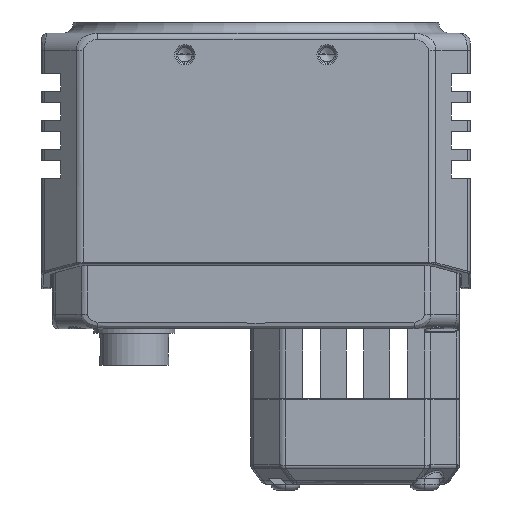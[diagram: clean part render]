
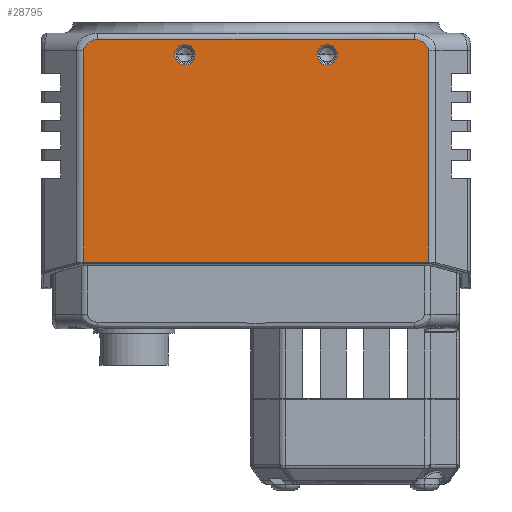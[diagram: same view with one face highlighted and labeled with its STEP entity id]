
A CAD part, left-side view. The second image highlights one B-rep face of the part: STEP entity #28795.
In plain terms, the highlighted planar face has unit normal (-1, 0, 0).
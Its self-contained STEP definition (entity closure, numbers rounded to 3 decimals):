
#974=CARTESIAN_POINT('',(-37.,-29.754,
-27.279));
#980=CARTESIAN_POINT('',(-37.,29.754,9.17));
#981=CARTESIAN_POINT('',(-37.,29.763,9.272));
#982=CARTESIAN_POINT('',(-37.,29.736,9.487));
#983=CARTESIAN_POINT('',(-37.,29.491,9.974));
#984=CARTESIAN_POINT('',(-37.,29.274,10.22));
#985=CARTESIAN_POINT('',(-37.,28.902,10.567));
#986=CARTESIAN_POINT('',(-37.,28.358,10.908));
#987=CARTESIAN_POINT('',(-37.,27.758,11.128));
#988=CARTESIAN_POINT('',(-37.,27.42,11.172));
#989=CARTESIAN_POINT('',(-37.,27.257,11.17));
#991=CARTESIAN_POINT('',(-37.,-27.259,11.168));
#992=CARTESIAN_POINT('',(-37.,-27.259,11.168));
#993=CARTESIAN_POINT('',(-37.,-27.308,11.168));
#994=CARTESIAN_POINT('',(-37.,-27.411,11.164));
#995=CARTESIAN_POINT('',(-37.,-27.57,11.145));
#996=CARTESIAN_POINT('',(-37.,-27.741,11.111));
#997=CARTESIAN_POINT('',(-37.,-27.922,11.061));
#998=CARTESIAN_POINT('',(-37.,-28.113,10.994));
#999=CARTESIAN_POINT('',(-37.,-28.309,10.909));
#1000=CARTESIAN_POINT('',(-37.,-28.504,10.808));
#1001=CARTESIAN_POINT('',(-37.,-28.685,10.699));
#1002=CARTESIAN_POINT('',(-37.,-28.846,10.588));
#1003=CARTESIAN_POINT('',(-37.,-28.985,10.48));
#1004=CARTESIAN_POINT('',(-37.,-29.107,10.376));
#1005=CARTESIAN_POINT('',(-37.,-29.213,10.275));
#1006=CARTESIAN_POINT('',(-37.,-29.305,10.177));
#1007=CARTESIAN_POINT('',(-37.,-29.387,10.081));
#1008=CARTESIAN_POINT('',(-37.,-29.458,9.989));
#1009=CARTESIAN_POINT('',(-37.,-29.52,9.899));
#1010=CARTESIAN_POINT('',(-37.,-29.573,9.811));
#1011=CARTESIAN_POINT('',(-37.,-29.619,9.726));
#1012=CARTESIAN_POINT('',(-37.,-29.657,9.642));
#1013=CARTESIAN_POINT('',(-37.,-29.688,9.56));
#1014=CARTESIAN_POINT('',(-37.,-29.713,9.48));
#1015=CARTESIAN_POINT('',(-37.,-29.732,9.401));
#1016=CARTESIAN_POINT('',(-37.,-29.745,9.323));
#1017=CARTESIAN_POINT('',(-37.,-29.753,9.246));
#1018=CARTESIAN_POINT('',(-37.,-29.754,9.195));
#1019=CARTESIAN_POINT('',(-37.,-29.754,9.17));
#1021=DIRECTION('',(0.,0.,-1.));
#1022=VECTOR('',#1021,36.449);
#1023=CARTESIAN_POINT('',(-37.,-29.754,
9.17));
#1024=LINE('',#1023,#1022);
#1025=CARTESIAN_POINT('',(-37.,-12.25,8.47));
#1026=DIRECTION('',(-1.,0.,0.));
#1027=DIRECTION('',(0.,-1.,0.));
#1028=AXIS2_PLACEMENT_3D('',#1025,#1026,#1027);
#1030=CARTESIAN_POINT('',(-37.,-12.25,8.47));
#1031=DIRECTION('',(-1.,0.,0.));
#1032=DIRECTION('',(0.,0.,1.));
#1033=AXIS2_PLACEMENT_3D('',#1030,#1031,#1032);
#1035=CARTESIAN_POINT('',(-37.,-12.25,8.47));
#1036=DIRECTION('',(-1.,0.,0.));
#1037=DIRECTION('',(0.,1.,0.));
#1038=AXIS2_PLACEMENT_3D('',#1035,#1036,#1037);
#1040=CARTESIAN_POINT('',(-37.,-12.25,8.47));
#1041=DIRECTION('',(-1.,0.,0.));
#1042=DIRECTION('',(0.,0.,-1.));
#1043=AXIS2_PLACEMENT_3D('',#1040,#1041,#1042);
#1045=CARTESIAN_POINT('',(-37.,12.25,8.47));
#1046=DIRECTION('',(-1.,0.,0.));
#1047=DIRECTION('',(0.,1.,0.));
#1048=AXIS2_PLACEMENT_3D('',#1045,#1046,#1047);
#1050=CARTESIAN_POINT('',(-37.,12.25,8.47));
#1051=DIRECTION('',(-1.,0.,0.));
#1052=DIRECTION('',(0.,0.,-1.));
#1053=AXIS2_PLACEMENT_3D('',#1050,#1051,#1052);
#1055=CARTESIAN_POINT('',(-37.,12.25,8.47));
#1056=DIRECTION('',(-1.,0.,0.));
#1057=DIRECTION('',(0.,-1.,0.));
#1058=AXIS2_PLACEMENT_3D('',#1055,#1056,#1057);
#1060=CARTESIAN_POINT('',(-37.,12.25,8.47));
#1061=DIRECTION('',(-1.,0.,0.));
#1062=DIRECTION('',(0.,0.,1.));
#1063=AXIS2_PLACEMENT_3D('',#1060,#1061,#1062);
#1065=DIRECTION('',(0.,-1.,0.));
#1066=VECTOR('',#1065,59.509);
#1067=CARTESIAN_POINT('',(-37.,29.754,
-27.279));
#1068=LINE('',#1067,#1066);
#1099=DIRECTION('',(0.,0.,-1.));
#1100=VECTOR('',#1099,36.449);
#1101=CARTESIAN_POINT('',(-37.,29.754,9.17));
#1102=LINE('',#1101,#1100);
#1997=DIRECTION('',(0.,1.,0.));
#1998=VECTOR('',#1997,54.517);
#1999=CARTESIAN_POINT('',(-37.,-27.259,
11.168));
#2000=LINE('',#1999,#1998);
#25667=VERTEX_POINT('',#974);
#25668=CARTESIAN_POINT('',(-37.,-29.754,
9.17));
#25669=VERTEX_POINT('',#25668);
#25672=VERTEX_POINT('',#980);
#25673=VERTEX_POINT('',#989);
#25674=VERTEX_POINT('',#991);
#25675=CARTESIAN_POINT('',(-37.,-14.,8.47));
#25676=CARTESIAN_POINT('',(-37.,-12.25,10.22));
#25677=VERTEX_POINT('',#25675);
#25678=VERTEX_POINT('',#25676);
#25679=CARTESIAN_POINT('',(-37.,-10.5,8.47));
#25680=VERTEX_POINT('',#25679);
#25681=CARTESIAN_POINT('',(-37.,-12.25,6.72));
#25682=VERTEX_POINT('',#25681);
#25683=CARTESIAN_POINT('',(-37.,14.,8.47));
#25684=CARTESIAN_POINT('',(-37.,12.25,6.72));
#25685=VERTEX_POINT('',#25683);
#25686=VERTEX_POINT('',#25684);
#25687=CARTESIAN_POINT('',(-37.,10.5,8.47));
#25688=VERTEX_POINT('',#25687);
#25689=CARTESIAN_POINT('',(-37.,12.25,10.22));
#25690=VERTEX_POINT('',#25689);
#25691=CARTESIAN_POINT('',(-37.,29.754,
-27.279));
#25692=VERTEX_POINT('',#25691);
#28757=CARTESIAN_POINT('',(-37.,0.,-8.054));
#28758=DIRECTION('',(1.,0.,0.));
#28759=DIRECTION('',(0.,-1.,0.));
#28760=AXIS2_PLACEMENT_3D('',#28757,#28758,#28759);
#28761=PLANE('',#28760);
#28763=ORIENTED_EDGE('',*,*,#28762,.F.);
#28765=ORIENTED_EDGE('',*,*,#28764,.F.);
#28767=ORIENTED_EDGE('',*,*,#28766,.T.);
#28769=ORIENTED_EDGE('',*,*,#28768,.F.);
#28771=ORIENTED_EDGE('',*,*,#28770,.T.);
#28772=ORIENTED_EDGE('',*,*,#28749,.T.);
#28773=EDGE_LOOP('',(#28763,#28765,#28767,#28769,#28771,#28772));
#28774=FACE_OUTER_BOUND('',#28773,.F.);
#28776=ORIENTED_EDGE('',*,*,#28775,.T.);
#28778=ORIENTED_EDGE('',*,*,#28777,.T.);
#28780=ORIENTED_EDGE('',*,*,#28779,.T.);
#28782=ORIENTED_EDGE('',*,*,#28781,.T.);
#28783=EDGE_LOOP('',(#28776,#28778,#28780,#28782));
#28784=FACE_BOUND('',#28783,.F.);
#28786=ORIENTED_EDGE('',*,*,#28785,.T.);
#28788=ORIENTED_EDGE('',*,*,#28787,.T.);
#28790=ORIENTED_EDGE('',*,*,#28789,.T.);
#28792=ORIENTED_EDGE('',*,*,#28791,.T.);
#28793=EDGE_LOOP('',(#28786,#28788,#28790,#28792));
#28794=FACE_BOUND('',#28793,.F.);
#28795=ADVANCED_FACE('',(#28774,#28784,#28794),#28761,.F.);
#990=B_SPLINE_CURVE_WITH_KNOTS('',3,(#980,#981,#982,#983,#984,#985,#986,#987,
#988,#989),.UNSPECIFIED.,.F.,.F.,(4,1,1,1,1,1,1,4),(0.,0.143,
0.286,0.429,0.571,0.714,
0.857,1.),.UNSPECIFIED.);
#1020=B_SPLINE_CURVE_WITH_KNOTS('',3,(#991,#992,#993,#994,#995,#996,#997,#998,
#999,#1000,#1001,#1002,#1003,#1004,#1005,#1006,#1007,#1008,#1009,#1010,#1011,
#1012,#1013,#1014,#1015,#1016,#1017,#1018,#1019),.UNSPECIFIED.,.F.,.F.,(4,1,1,1,
1,1,1,1,1,1,1,1,1,1,1,1,1,1,1,1,1,1,1,1,1,1,4),(0.,0.,
0.038,0.079,0.123,0.171,
0.222,0.277,0.335,0.392,
0.444,0.491,0.535,0.576,
0.615,0.652,0.687,0.722,
0.755,0.787,0.819,0.85,
0.88,0.911,0.941,0.97,1.),
.UNSPECIFIED.);
#1029=CIRCLE('',#1028,1.75);
#1034=CIRCLE('',#1033,1.75);
#1039=CIRCLE('',#1038,1.75);
#1044=CIRCLE('',#1043,1.75);
#1049=CIRCLE('',#1048,1.75);
#1054=CIRCLE('',#1053,1.75);
#1059=CIRCLE('',#1058,1.75);
#1064=CIRCLE('',#1063,1.75);
#28749=EDGE_CURVE('',#25669,#25667,#1024,.T.);
#28762=EDGE_CURVE('',#25692,#25667,#1068,.T.);
#28764=EDGE_CURVE('',#25672,#25692,#1102,.T.);
#28766=EDGE_CURVE('',#25672,#25673,#990,.T.);
#28768=EDGE_CURVE('',#25674,#25673,#2000,.T.);
#28770=EDGE_CURVE('',#25674,#25669,#1020,.T.);
#28775=EDGE_CURVE('',#25677,#25678,#1029,.T.);
#28777=EDGE_CURVE('',#25678,#25680,#1034,.T.);
#28779=EDGE_CURVE('',#25680,#25682,#1039,.T.);
#28781=EDGE_CURVE('',#25682,#25677,#1044,.T.);
#28785=EDGE_CURVE('',#25685,#25686,#1049,.T.);
#28787=EDGE_CURVE('',#25686,#25688,#1054,.T.);
#28789=EDGE_CURVE('',#25688,#25690,#1059,.T.);
#28791=EDGE_CURVE('',#25690,#25685,#1064,.T.);
